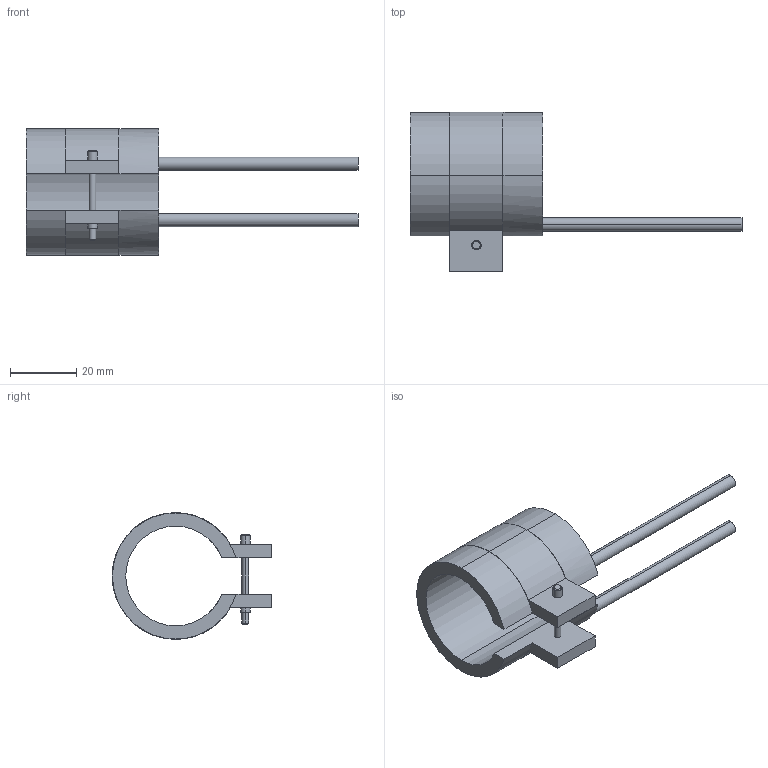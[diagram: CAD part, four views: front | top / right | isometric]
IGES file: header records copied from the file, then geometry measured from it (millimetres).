
Start section: START RECORD GO HERE.
Global section: file name: 14030040.igs; native system: DASSAULT SYSTEMES CATIA V5 R20 - www.3ds.com; preprocessor: CATIA Version 5 Release 20 ; author: Utente; organization: NB04-ASUS; date: 20210331.133934; units: millimetre
Bounding box: 100 x 48.1 x 38.2 mm (x, y, z)
Surface area: 11329.5 mm2 (no closed solid volume)
Topology: 0 solids, 0 shells, 45 faces, 232 edges, 232 vertices
Faces by surface type: revolution 28, plane 17
